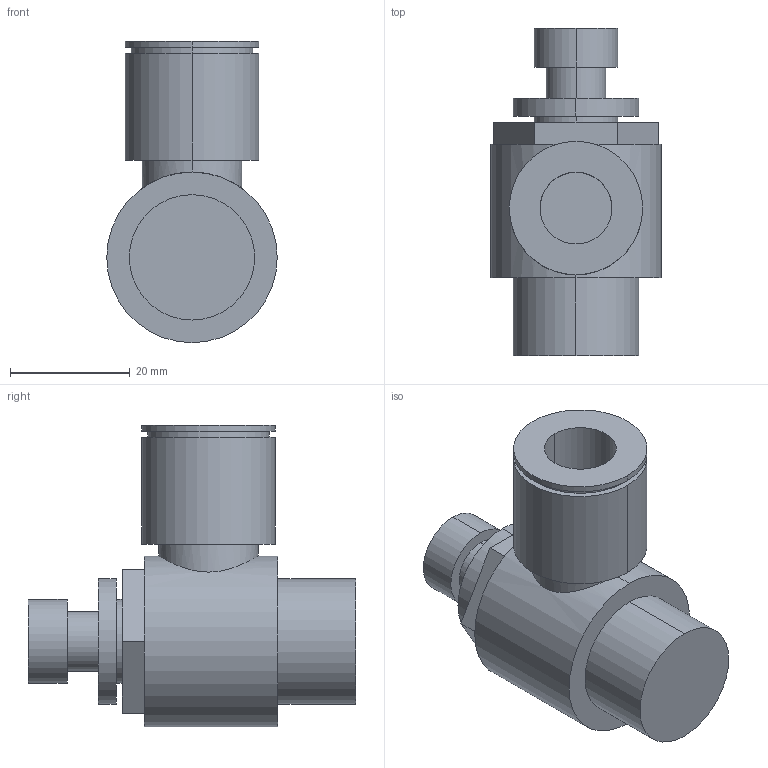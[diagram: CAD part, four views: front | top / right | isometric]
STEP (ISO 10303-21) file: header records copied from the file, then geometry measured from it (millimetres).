
FILE_DESCRIPTION( ( '' ), '1' );
FILE_NAME( 'G:/SMC狟婥/AS4201F-04-12SA.stp', '2023-03-07T03:54:37', ( '' ), ( '' ), ' ', ' ', ' ' );
FILE_SCHEMA( ( 'CONFIG_CONTROL_DESIGN' ) );
Length unit declared in the file: millimetre
Products named in the file (1): 1
Bounding box: 28.5 x 54.7 x 50.35 mm (x, y, z)
Volume: 28924.8 mm3; surface area: 8520 mm2
Topology: 1 solids, 1 shells, 41 faces, 86 edges, 57 vertices
Faces by surface type: cylinder 22, plane 19
Entity records: 1219 total; most frequent: CARTESIAN_POINT 252, DIRECTION 209, ORIENTED_EDGE 172, EDGE_CURVE 86, AXIS2_PLACEMENT_3D 84, VERTEX_POINT 57, EDGE_LOOP 51, CIRCLE 42
